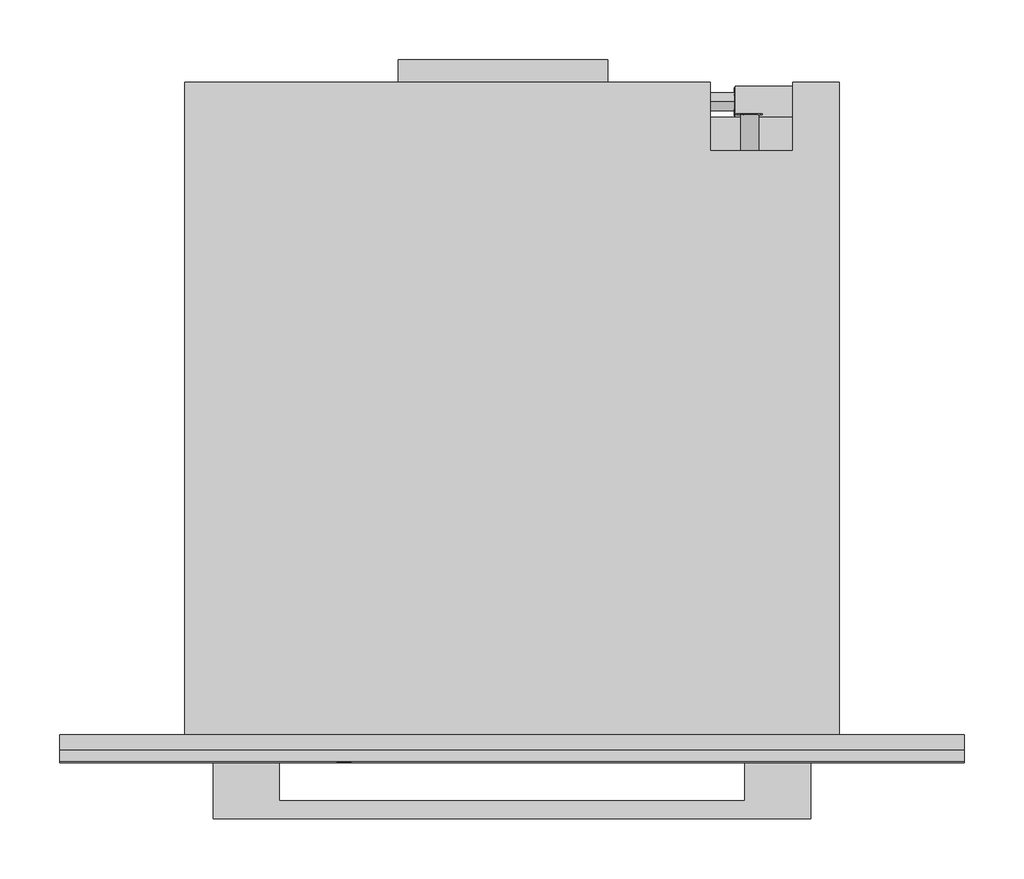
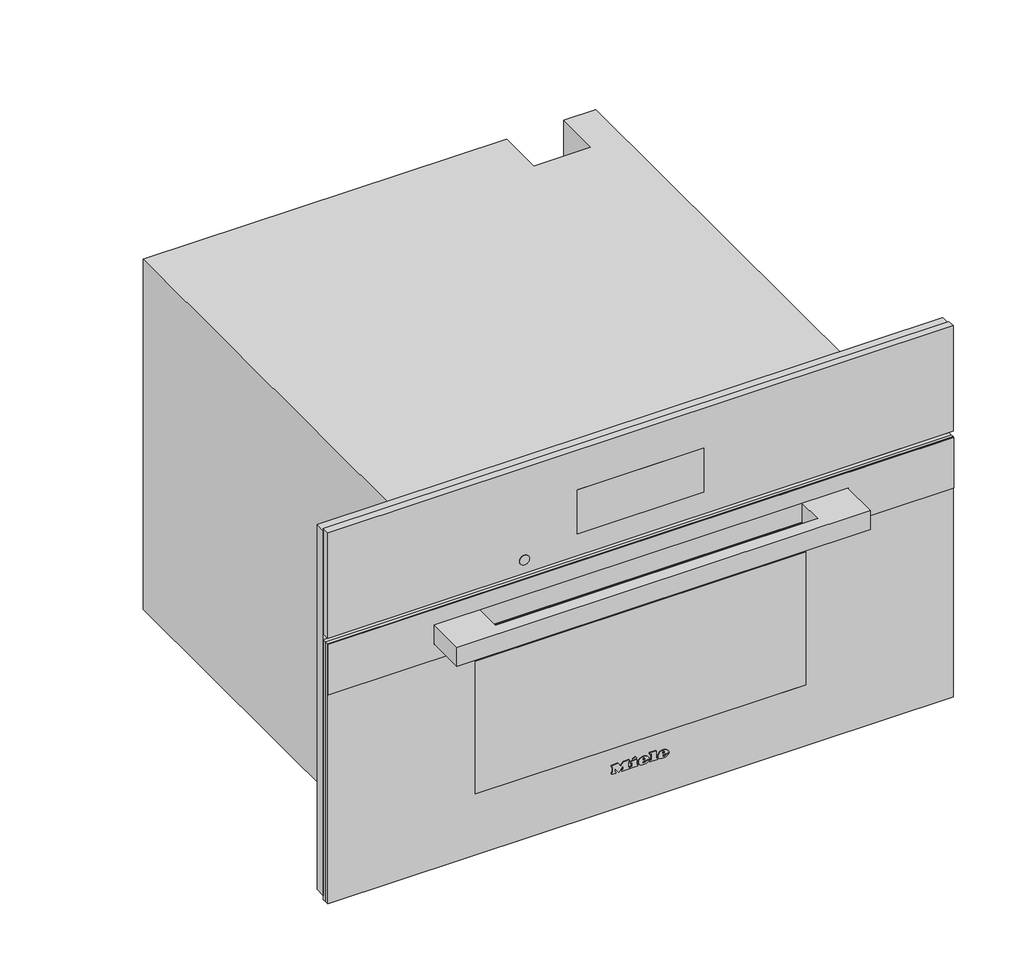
# Not in any storey: 1 proxy.
"""IFC4 building model written with IfcOpenShell, lengths in millimetres."""

from ifc_helpers import new_model, si_unit, origin, place, context, project, spatial, transform, mapped, element, save
from components import specialty_equipment_21522c0e

model = new_model("IFC4")

# Units and contexts
model_context = context("Model", 3, world=origin())
ifc_project = project(units=[si_unit("LENGTHUNIT", "METRE", prefix="MILLI")], contexts=[model_context])

# Site, building
site = spatial("IfcSite", under=ifc_project)
building = spatial("IfcBuilding", under=site)

# Proxy
placement = place(None, origin())
specialty_equipment_shape = specialty_equipment_21522c0e(model_context)
element("IfcBuildingElementProxy", 1, Name="11876050_USA_DGC7875_EDST-CLST : 23787542_USA_11876050_DGC7875_EDST-CLST", ObjectType="11876050_USA_DGC7875_EDST-CLST : 23787542_USA_11876050_DGC7875_EDST-CLST", at=placement, inside=building, context=model_context, shape_type="MappedRepresentation", body=[
    mapped(specialty_equipment_shape, transform((0.0, 0.0, 0.0), x_axis=(1.0, 0.0, 0.0), y_axis=(0.0, 1.0, 0.0), z_axis=(0.0, 0.0, 1.0))),
])

save(model, "model.ifc")
